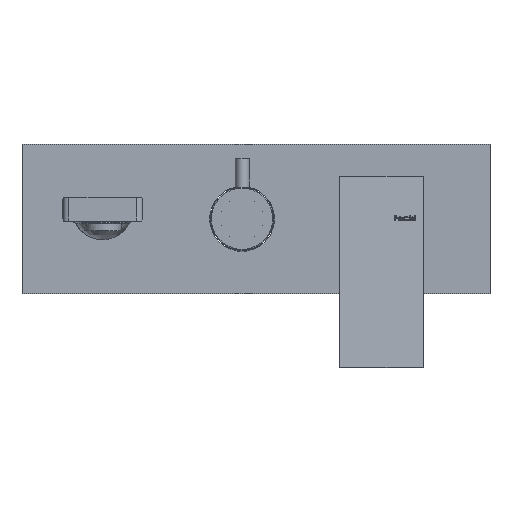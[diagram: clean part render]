
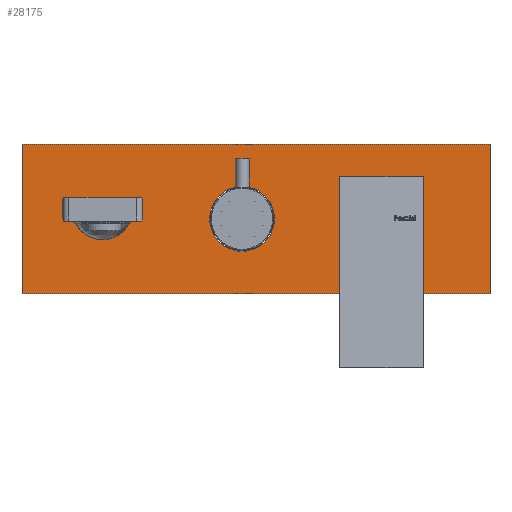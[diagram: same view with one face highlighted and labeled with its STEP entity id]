
A CAD part, top view. The second image highlights one B-rep face of the part: STEP entity #28175.
In plain terms, the highlighted planar face has unit normal (0, 0, 1) as drawn and (0, 1, 0) by its records, which use the part's own axes.
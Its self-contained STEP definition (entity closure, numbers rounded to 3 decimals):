
#27946=DIRECTION('',(0.,0.,1.));
#27947=VECTOR('',#27946,235.);
#27948=CARTESIAN_POINT('',(-37.5,2.,-117.5));
#27949=LINE('',#27948,#27947);
#27950=DIRECTION('',(-1.,0.,0.));
#27951=VECTOR('',#27950,75.);
#27952=CARTESIAN_POINT('',(37.5,2.,-117.5));
#27953=LINE('',#27952,#27951);
#27954=DIRECTION('',(0.,0.,-1.));
#27955=VECTOR('',#27954,235.);
#27956=CARTESIAN_POINT('',(37.5,2.,117.5));
#27957=LINE('',#27956,#27955);
#27958=DIRECTION('',(1.,0.,0.));
#27959=VECTOR('',#27958,75.);
#27960=CARTESIAN_POINT('',(-37.5,2.,117.5));
#27961=LINE('',#27960,#27959);
#27962=CARTESIAN_POINT('',(0.,2.,-63.));
#27963=DIRECTION('',(0.,1.,0.));
#27964=DIRECTION('',(1.,0.,0.));
#27965=AXIS2_PLACEMENT_3D('',#27962,#27963,#27964);
#27967=CARTESIAN_POINT('',(0.,2.,-63.));
#27968=DIRECTION('',(0.,1.,0.));
#27969=DIRECTION('',(-1.,0.,0.));
#27970=AXIS2_PLACEMENT_3D('',#27967,#27968,#27969);
#27972=CARTESIAN_POINT('',(0.,2.,7.));
#27973=DIRECTION('',(0.,1.,0.));
#27974=DIRECTION('',(1.,0.,0.));
#27975=AXIS2_PLACEMENT_3D('',#27972,#27973,#27974);
#27977=CARTESIAN_POINT('',(0.,2.,7.));
#27978=DIRECTION('',(0.,1.,0.));
#27979=DIRECTION('',(-1.,0.,0.));
#27980=AXIS2_PLACEMENT_3D('',#27977,#27978,#27979);
#27982=CARTESIAN_POINT('',(0.,2.,77.));
#27983=DIRECTION('',(0.,1.,0.));
#27984=DIRECTION('',(1.,0.,0.));
#27985=AXIS2_PLACEMENT_3D('',#27982,#27983,#27984);
#27987=CARTESIAN_POINT('',(0.,2.,77.));
#27988=DIRECTION('',(0.,1.,0.));
#27989=DIRECTION('',(-1.,0.,0.));
#27990=AXIS2_PLACEMENT_3D('',#27987,#27988,#27989);
#28024=CARTESIAN_POINT('',(-37.5,2.,-117.5));
#28025=CARTESIAN_POINT('',(-37.5,2.,117.5));
#28026=VERTEX_POINT('',#28024);
#28027=VERTEX_POINT('',#28025);
#28028=CARTESIAN_POINT('',(37.5,2.,117.5));
#28029=CARTESIAN_POINT('',(37.5,2.,-117.5));
#28030=VERTEX_POINT('',#28028);
#28031=VERTEX_POINT('',#28029);
#28044=CARTESIAN_POINT('',(20.25,2.,-63.));
#28045=CARTESIAN_POINT('',(-20.25,2.,-63.));
#28046=VERTEX_POINT('',#28044);
#28047=VERTEX_POINT('',#28045);
#28048=CARTESIAN_POINT('',(16.25,2.,7.));
#28049=CARTESIAN_POINT('',(-16.25,2.,7.));
#28050=VERTEX_POINT('',#28048);
#28051=VERTEX_POINT('',#28049);
#28052=CARTESIAN_POINT('',(9.75,2.,77.));
#28053=CARTESIAN_POINT('',(-9.75,2.,77.));
#28054=VERTEX_POINT('',#28052);
#28055=VERTEX_POINT('',#28053);
#28146=CARTESIAN_POINT('',(0.,2.,0.));
#28147=DIRECTION('',(0.,1.,0.));
#28148=DIRECTION('',(0.,0.,1.));
#28149=AXIS2_PLACEMENT_3D('',#28146,#28147,#28148);
#28150=PLANE('',#28149);
#28151=ORIENTED_EDGE('',*,*,#28098,.F.);
#28152=ORIENTED_EDGE('',*,*,#28113,.F.);
#28153=ORIENTED_EDGE('',*,*,#28127,.F.);
#28154=ORIENTED_EDGE('',*,*,#28140,.F.);
#28155=EDGE_LOOP('',(#28151,#28152,#28153,#28154));
#28156=FACE_OUTER_BOUND('',#28155,.F.);
#28158=ORIENTED_EDGE('',*,*,#28157,.T.);
#28160=ORIENTED_EDGE('',*,*,#28159,.T.);
#28161=EDGE_LOOP('',(#28158,#28160));
#28162=FACE_BOUND('',#28161,.F.);
#28164=ORIENTED_EDGE('',*,*,#28163,.T.);
#28166=ORIENTED_EDGE('',*,*,#28165,.T.);
#28167=EDGE_LOOP('',(#28164,#28166));
#28168=FACE_BOUND('',#28167,.F.);
#28170=ORIENTED_EDGE('',*,*,#28169,.T.);
#28172=ORIENTED_EDGE('',*,*,#28171,.T.);
#28173=EDGE_LOOP('',(#28170,#28172));
#28174=FACE_BOUND('',#28173,.F.);
#28175=ADVANCED_FACE('',(#28156,#28162,#28168,#28174),#28150,.T.);
#27966=CIRCLE('',#27965,20.25);
#27971=CIRCLE('',#27970,20.25);
#27976=CIRCLE('',#27975,16.25);
#27981=CIRCLE('',#27980,16.25);
#27986=CIRCLE('',#27985,9.75);
#27991=CIRCLE('',#27990,9.75);
#28098=EDGE_CURVE('',#28026,#28027,#27949,.T.);
#28113=EDGE_CURVE('',#28031,#28026,#27953,.T.);
#28127=EDGE_CURVE('',#28030,#28031,#27957,.T.);
#28140=EDGE_CURVE('',#28027,#28030,#27961,.T.);
#28157=EDGE_CURVE('',#28046,#28047,#27966,.T.);
#28159=EDGE_CURVE('',#28047,#28046,#27971,.T.);
#28163=EDGE_CURVE('',#28050,#28051,#27976,.T.);
#28165=EDGE_CURVE('',#28051,#28050,#27981,.T.);
#28169=EDGE_CURVE('',#28054,#28055,#27986,.T.);
#28171=EDGE_CURVE('',#28055,#28054,#27991,.T.);
